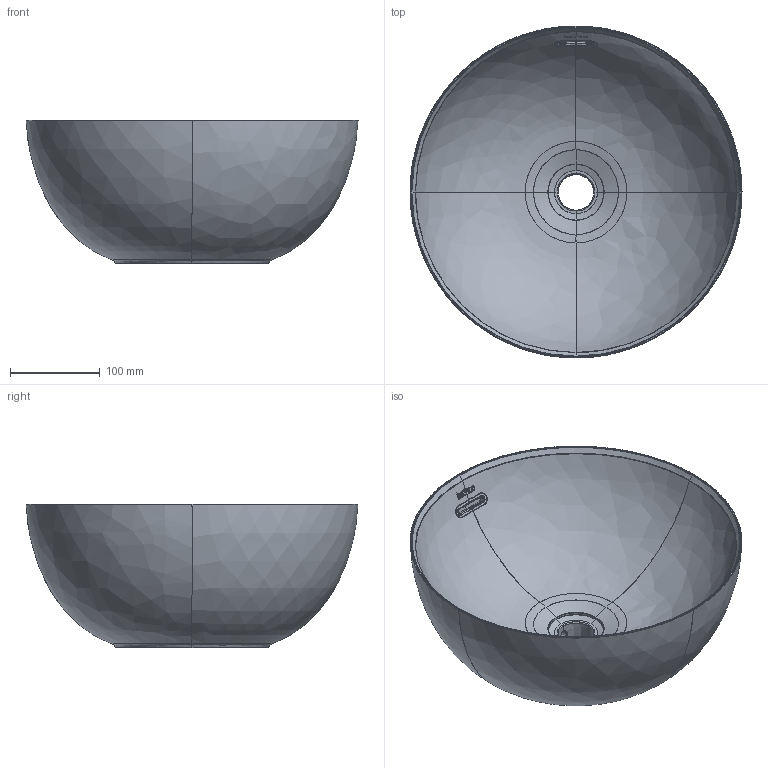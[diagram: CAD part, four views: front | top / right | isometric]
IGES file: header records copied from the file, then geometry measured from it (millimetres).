
Global section: file name: C:\Users\User\Desktop\Lavabos 3D\4131 Bari\4131 Bari.igs; native system: Rhinoceros ( Feb 26 2015 ); preprocessor: Trout Lake IGES 012 Feb 26 2015; date: 191022.044131; units: millimetre
Bounding box: 369.95 x 369.95 x 160 mm (x, y, z)
Surface area: 651231.1 mm2 (no closed solid volume)
Topology: 0 solids, 0 shells, 236 faces, 1517 edges, 1514 vertices
Faces by surface type: bspline 236
